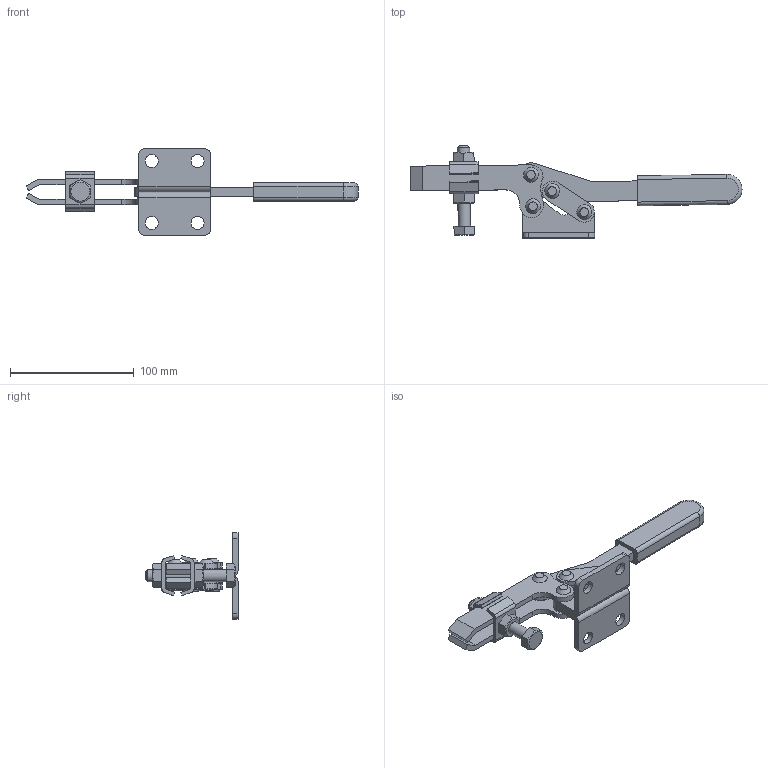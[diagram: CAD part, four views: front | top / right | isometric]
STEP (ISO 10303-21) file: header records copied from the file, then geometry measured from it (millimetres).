
FILE_DESCRIPTION(/* description */ (''),/* implementation_level */ '2;1');
FILE_NAME(/* name */ 'D:\3D作業領域\3D\38D・38DS\No.38D.stp',/* time_stamp */ '2021-12-01T10:23:25+09:00',/* author */ ('y-takahashi'),/* organization */ (''),/* preprocessor_version */ 'ST-DEVELOPER v18',/* originating_system */ 'Autodesk Inventor 2020',/* authorisation */ '');
FILE_SCHEMA (('AUTOMOTIVE_DESIGN { 1 0 10303 214 3 1 1 }'));
Length unit declared in the file: millimetre
Products named in the file (17): No.38D; 38Dベース b; 38Dアームb; 38D38DSアーム; 38DリベットS; ワッシャーt1.9; 38Dリンクb; 38Dリンク b; 38DリベットL; ワッシャーt1.4; ワッシャーt2.2; 38Dハンドル b; 38DGRP; 38Dスピンドルセット; M10×65ボルト; M10ナット（1種）; M10角座金（38D）
Assembly tree (24 placements, depth 3):
  No.38D
    38Dベース b
    38Dアームb
      38D38DSアーム
      38DリベットS  x2
      ワッシャーt1.4  x2
      ワッシャーt1.9  x2
    38Dリンクb
      38Dリンク b
      38DリベットL  x2
      ワッシャーt1.4  x2
      ワッシャーt2.2  x2
    38Dハンドル b
    38DGRP
    38Dスピンドルセット
      M10×65ボルト
      M10ナット（1種）  x2
      M10角座金（38D）
Bounding box: 268.45 x 74.48 x 70 mm (x, y, z)
Volume: 118205.5 mm3; surface area: 63318.8 mm2
Topology: 24 solids, 24 shells, 240 faces, 551 edges, 375 vertices
Faces by surface type: plane 135, cylinder 91, cone 8, torus 6
Full cylindrical faces by diameter (mm): 4.8 x4, 7.9 x4, 8 x12, 8.5 x8, 10 x3, 10.5 x4, 10.9 x2, 12.3 x4, 15.9 x8
Entity records: 6303 total; most frequent: DIRECTION 1080, CARTESIAN_POINT 1019, ORIENTED_EDGE 910, EDGE_CURVE 455, AXIS2_PLACEMENT_3D 406, VERTEX_POINT 305, LINE 268, VECTOR 268
